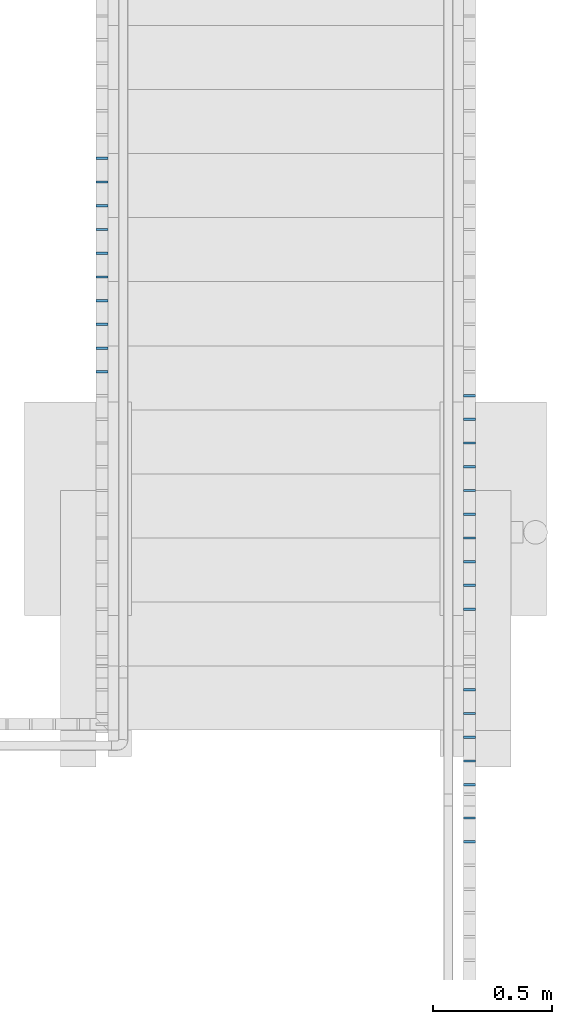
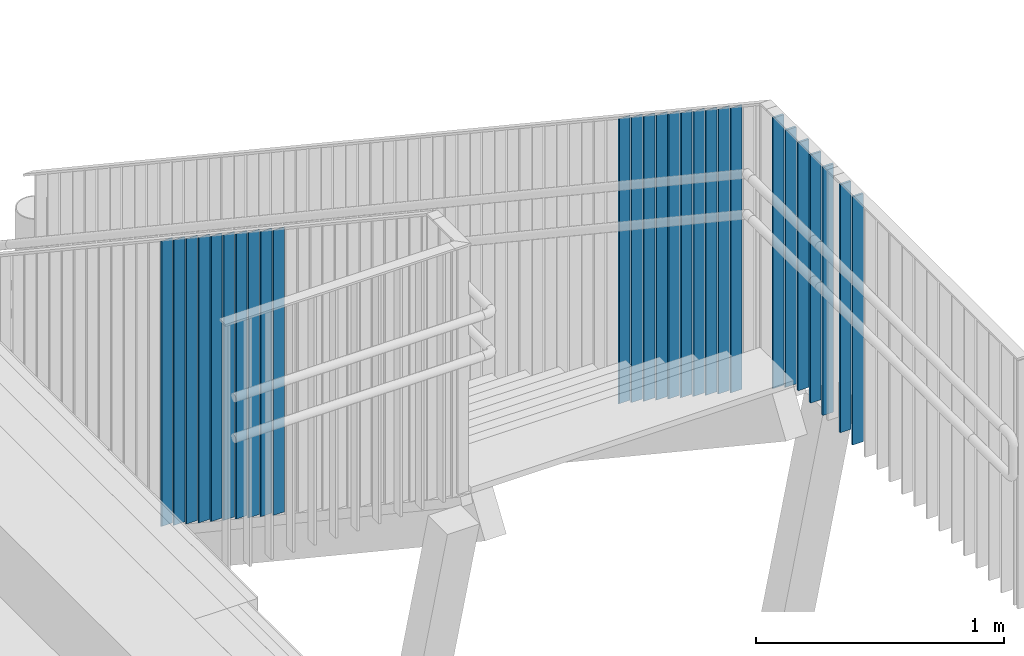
# One storey, part 78 of 418: 27 members, 2 elements without a shape of their own.
"""IFC2X3 building model written with IfcOpenShell, lengths in millimetres."""

from ifc_helpers import new_model, entity, si_unit, converted_unit, derived_unit, money_unit, direction, frame, origin_with_axes, place, context, subcontext, project, spatial, faceted_brep, material, type_object, element, aggregate, save


model = new_model("IFC2X3")

# Units and contexts
model_context = context("Model", 3, precision=0.01, world=origin_with_axes(), true_north=direction((0.0, 1.0)))
body_context = subcontext(model_context, "Body", "Model", "MODEL_VIEW")
ifc_project = project(units=[si_unit("LENGTHUNIT", "METRE", prefix="MILLI"), si_unit("AREAUNIT", "SQUARE_METRE"), si_unit("VOLUMEUNIT", "CUBIC_METRE"), converted_unit("PLANEANGLEUNIT", "DEGREE", entity("IfcPlaneAngleMeasure", 0.0174532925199), si_unit("PLANEANGLEUNIT", "RADIAN"), dimensions=[0, 0, 0, 0, 0, 0, 0]), si_unit("SOLIDANGLEUNIT", "STERADIAN"), money_unit("EUR"), converted_unit("TIMEUNIT", "Year", entity("IfcTimeMeasure", 31556926.0), si_unit("TIMEUNIT", "SECOND"), dimensions=[0, 0, 1, 0, 0, 0, 0]), si_unit("MASSUNIT", "GRAM", prefix="KILO"), si_unit("THERMODYNAMICTEMPERATUREUNIT", "DEGREE_CELSIUS"), si_unit("LUMINOUSINTENSITYUNIT", "LUMEN"), si_unit("ENERGYUNIT", "JOULE", prefix="MEGA"), derived_unit("THERMALCONDUCTANCEUNIT", [(si_unit("POWERUNIT", "WATT"), 1), (si_unit("LENGTHUNIT", "METRE"), -1), (si_unit("THERMODYNAMICTEMPERATUREUNIT", "KELVIN"), -1)]), derived_unit("SPECIFICHEATCAPACITYUNIT", [(si_unit("ENERGYUNIT", "JOULE"), 1), (si_unit("MASSUNIT", "GRAM", prefix="KILO"), -1), (si_unit("THERMODYNAMICTEMPERATUREUNIT", "KELVIN"), -1)]), derived_unit("MASSDENSITYUNIT", [(si_unit("MASSUNIT", "GRAM", prefix="KILO"), 1), (si_unit("VOLUMEUNIT", "CUBIC_METRE"), -1)])], contexts=[model_context])

# Site, building, storey
site_placement = place(None, origin_with_axes())
site = spatial("IfcSite", under=ifc_project, at=site_placement, Name="Paldiski mnt 245/1, Tallinn, Harjumaa", CompositionType="COMPLEX")
building_placement = place(site_placement, origin_with_axes())
building = spatial("IfcBuilding", under=site, at=building_placement, Name="RKAS Hoone üldnimetus (kasutust iseloomustav) -> IFC Project Manager -> SOLIBRI", CompositionType="ELEMENT")
storey_placement = place(building_placement, origin_with_axes())
storey = spatial("IfcBuildingStorey", under=building, at=storey_placement, Name="Esimene korrus", CompositionType="ELEMENT", Elevation=0.0)

# Railing, members
railing_type = type_object("IfcRailingType", Name="Railing Type", PredefinedType="NOTDEFINED")
railing_1_placement = place(storey_placement, frame((-15438.0000282, 781.88210964, -670.434782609), z_axis=(0.0, 0.0, 1.0), x_axis=(-0.773149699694, -0.634223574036, 0.0)))
railing_1 = element("IfcRailing", 1, at=railing_1_placement, inside=storey, type_object=railing_type, Name="Trepipiire", PredefinedType="NOTDEFINED")
ifc_material = material(Name="RAL7016")
member_type = type_object("IfcMemberType", Name="IfcMember", PredefinedType="POST")
member_1_placement = place(railing_1_placement, frame((1744.41686387, 2087.11159382, 2227.21417069), z_axis=(0.0, 0.0, 1.0), x_axis=(-0.773149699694, 0.634223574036, 0.0)))
member_1 = element("IfcMember", 2, at=member_1_placement, type_object=member_type, material=ifc_material, Name="Balustraad - 001", ObjectType="POST", context=body_context, shape_type="Brep", body=[
    faceted_brep([(25.0, -5.0, 89.8872784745), (25.0, 5.0, 83.2206118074), (25.0, 5.0, 1486.6747182), (25.0, -5.0, 1493.3252818), (-24.9999934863, 5.0, 83.2206118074), (-24.9999935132, -5.0, 89.8872784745), (-25.0, 5.0, 1486.6747182), (-25.0, -5.0, 1493.3252818)], [[[0, 1, 2, 3]], [[4, 1, 0, 5]], [[1, 4, 6, 2]], [[6, 7, 3, 2]], [[5, 0, 3, 7]], [[4, 5, 7, 6]]]),
])
member_2_placement = place(railing_1_placement, frame((1807.83922127, 2164.42656379, 2293.71980676), z_axis=(0.0, 0.0, 1.0), x_axis=(-0.773149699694, 0.634223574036, 0.0)))
member_2 = element("IfcMember", 3, at=member_2_placement, type_object=member_type, material=ifc_material, Name="Balustraad - 001", ObjectType="POST", context=body_context, shape_type="Brep", body=[
    faceted_brep([(25.0, -5.0, 90.0483090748), (25.0, 5.0, 83.3816424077), (25.0, 5.0, 1486.6747182), (25.0, -5.0, 1493.3252818), (-24.999993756, 5.0, 83.3816424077), (-24.9999937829, -5.0, 90.0483090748), (-25.0, 5.0, 1486.6747182), (-25.0, -5.0, 1493.3252818)], [[[0, 1, 2, 3]], [[4, 1, 0, 5]], [[1, 4, 6, 2]], [[6, 7, 3, 2]], [[5, 0, 3, 7]], [[4, 5, 7, 6]]]),
])
member_3_placement = place(railing_1_placement, frame((1871.26157868, 2241.74153375, 2360.22544283), z_axis=(0.0, 0.0, 1.0), x_axis=(-0.773149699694, 0.634223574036, 0.0)))
member_3 = element("IfcMember", 4, at=member_3_placement, type_object=member_type, material=ifc_material, Name="Balustraad - 001", ObjectType="POST", context=body_context, shape_type="Brep", body=[
    faceted_brep([(25.0, -5.0, 90.2093396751), (25.0, 5.0, 83.542673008), (25.0, 5.0, 1486.6747182), (25.0, -5.0, 1493.3252818), (-24.9999940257, 5.0, 83.542673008), (-24.9999940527, -5.0, 90.2093396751), (-25.0, 5.0, 1486.6747182), (-25.0, -5.0, 1493.3252818)], [[[0, 1, 2, 3]], [[4, 1, 0, 5]], [[1, 4, 6, 2]], [[6, 7, 3, 2]], [[5, 0, 3, 7]], [[4, 5, 7, 6]]]),
])
member_4_placement = place(railing_1_placement, frame((1934.68393608, 2319.05650372, 2426.7310789), z_axis=(0.0, 0.0, 1.0), x_axis=(-0.773149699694, 0.634223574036, 0.0)))
member_4 = element("IfcMember", 5, at=member_4_placement, type_object=member_type, material=ifc_material, Name="Balustraad - 001", ObjectType="POST", context=body_context, shape_type="Brep", body=[
    faceted_brep([(25.0, -5.0, 90.3703702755), (25.0, 5.0, 83.7037036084), (25.0, 5.0, 1486.6747182), (25.0, -5.0, 1493.3252818), (-24.9999942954, 5.0, 83.7037036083), (-24.9999943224, -5.0, 90.3703702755), (-25.0, 5.0, 1486.6747182), (-25.0, -5.0, 1493.3252818)], [[[0, 1, 2, 3]], [[4, 1, 0, 5]], [[1, 4, 6, 2]], [[6, 7, 3, 2]], [[5, 0, 3, 7]], [[4, 5, 7, 6]]]),
])
member_5_placement = place(railing_1_placement, frame((1998.10629349, 2396.37147369, 2493.23671498), z_axis=(0.0, 0.0, 1.0), x_axis=(-0.773149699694, 0.634223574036, 0.0)))
member_5 = element("IfcMember", 6, at=member_5_placement, type_object=member_type, material=ifc_material, Name="Balustraad - 001", ObjectType="POST", context=body_context, shape_type="Brep", body=[
    faceted_brep([(25.0, -5.0, 90.5314008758), (25.0, 5.0, 83.8647342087), (25.0, 5.0, 1486.6747182), (25.0, -5.0, 1493.3252818), (-24.9999945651, 5.0, 83.8647342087), (-24.9999945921, -5.0, 90.5314008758), (-25.0, 5.0, 1486.6747182), (-25.0, -5.0, 1493.3252818)], [[[0, 1, 2, 3]], [[4, 1, 0, 5]], [[1, 4, 6, 2]], [[6, 7, 3, 2]], [[5, 0, 3, 7]], [[4, 5, 7, 6]]]),
])
member_6_placement = place(railing_1_placement, frame((2061.52865089, 2473.68644366, 2559.74235105), z_axis=(0.0, 0.0, 1.0), x_axis=(-0.773149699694, 0.634223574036, 0.0)))
member_6 = element("IfcMember", 7, at=member_6_placement, type_object=member_type, material=ifc_material, Name="Balustraad - 001", ObjectType="POST", context=body_context, shape_type="Brep", body=[
    faceted_brep([(25.0, -5.0, 90.6924314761), (25.0, 5.0, 84.025764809), (25.0, 5.0, 1486.6747182), (25.0, -5.0, 1493.3252818), (-24.9999948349, 5.0, 84.025764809), (-24.9999948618, -5.0, 90.6924314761), (-25.0, 5.0, 1486.6747182), (-25.0, -5.0, 1493.3252818)], [[[0, 1, 2, 3]], [[4, 1, 0, 5]], [[1, 4, 6, 2]], [[6, 7, 3, 2]], [[5, 0, 3, 7]], [[4, 5, 7, 6]]]),
])
member_7_placement = place(railing_1_placement, frame((2124.95100829, 2551.00141363, 2626.24798712), z_axis=(0.0, 0.0, 1.0), x_axis=(-0.773149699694, 0.634223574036, 0.0)))
member_7 = element("IfcMember", 8, at=member_7_placement, type_object=member_type, material=ifc_material, Name="Balustraad - 001", ObjectType="POST", context=body_context, shape_type="Brep", body=[
    faceted_brep([(25.0, -5.0, 90.8534620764), (25.0, 5.0, 84.1867954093), (25.0, 5.0, 1486.6747182), (25.0, -5.0, 1493.3252818), (-24.9999951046, 5.0, 84.1867954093), (-24.9999951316, -5.0, 90.8534620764), (-25.0, 5.0, 1486.6747182), (-25.0, -5.0, 1493.3252818)], [[[0, 1, 2, 3]], [[4, 1, 0, 5]], [[1, 4, 6, 2]], [[6, 7, 3, 2]], [[5, 0, 3, 7]], [[4, 5, 7, 6]]]),
])
member_8_placement = place(railing_1_placement, frame((2188.3733657, 2628.3163836, 2692.75362319), z_axis=(0.0, 0.0, 1.0), x_axis=(-0.773149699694, 0.634223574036, 0.0)))
member_8 = element("IfcMember", 9, at=member_8_placement, type_object=member_type, material=ifc_material, Name="Balustraad - 001", ObjectType="POST", context=body_context, shape_type="Brep", body=[
    faceted_brep([(25.0, -5.0, 91.0144926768), (25.0, 5.0, 84.3478260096), (25.0, 5.0, 1486.6747182), (25.0, -5.0, 1493.3252818), (-24.9999953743, 5.0, 84.3478260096), (-24.9999954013, -5.0, 91.0144926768), (-25.0, 5.0, 1486.6747182), (-25.0, -5.0, 1493.3252818)], [[[0, 1, 2, 3]], [[4, 1, 0, 5]], [[1, 4, 6, 2]], [[6, 7, 3, 2]], [[5, 0, 3, 7]], [[4, 5, 7, 6]]]),
])
member_9_placement = place(railing_1_placement, frame((2251.7957231, 2705.63135357, 2759.25925926), z_axis=(0.0, 0.0, 1.0), x_axis=(-0.773149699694, 0.634223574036, 0.0)))
member_9 = element("IfcMember", 10, at=member_9_placement, type_object=member_type, material=ifc_material, Name="Balustraad - 001", ObjectType="POST", context=body_context, shape_type="Brep", body=[
    faceted_brep([(25.0, -5.0, 91.1755232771), (25.0, 5.0, 84.50885661), (25.0, 5.0, 1486.6747182), (25.0, -5.0, 1493.3252818), (-24.999995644, 5.0, 84.50885661), (-24.999995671, -5.0, 91.1755232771), (-25.0, 5.0, 1486.6747182), (-25.0, -5.0, 1493.3252818)], [[[0, 1, 2, 3]], [[4, 1, 0, 5]], [[1, 4, 6, 2]], [[6, 7, 3, 2]], [[5, 0, 3, 7]], [[4, 5, 7, 6]]]),
])
member_10_placement = place(railing_1_placement, frame((2315.2180805, 2782.94632354, 2825.76489533), z_axis=(0.0, 0.0, 1.0), x_axis=(-0.773149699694, 0.634223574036, 0.0)))
member_10 = element("IfcMember", 11, at=member_10_placement, type_object=member_type, material=ifc_material, Name="Balustraad - 001", ObjectType="POST", context=body_context, shape_type="Brep", body=[
    faceted_brep([(25.0, -5.0, 91.3365538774), (25.0, 5.0, 84.6698872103), (25.0, 5.0, 1486.6747182), (25.0, -5.0, 1493.3252818), (-24.9999959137, 5.0, 84.6698872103), (-24.9999959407, -5.0, 91.3365538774), (-25.0, 5.0, 1486.6747182), (-25.0, -5.0, 1493.3252818)], [[[0, 1, 2, 3]], [[4, 1, 0, 5]], [[1, 4, 6, 2]], [[6, 7, 3, 2]], [[5, 0, 3, 7]], [[4, 5, 7, 6]]]),
])
aggregate(railing_1, [member_1, member_2, member_3, member_4, member_5, member_6, member_7, member_8, member_9, member_10])

railing_2_placement = place(storey_placement, frame((-13938.0000282, 1623.82640275, -670.434782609), z_axis=(0.0, 0.0, 1.0), x_axis=(0.773149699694, 0.634223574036, 0.0)))
railing_2 = element("IfcRailing", 12, at=railing_2_placement, inside=storey, type_object=railing_type, Name="Trepipiire", PredefinedType="NOTDEFINED")
member_11_placement = place(railing_2_placement, frame((-2873.96387164, -3542.92144959, 2892.2705314), z_axis=(0.0, 0.0, 1.0), x_axis=(0.773149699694, -0.634223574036, 0.0)))
member_11 = element("IfcMember", 13, at=member_11_placement, type_object=member_type, material=ifc_material, Name="Piirde Post - 001", ObjectType="POST", context=body_context, shape_type="Brep", body=[
    faceted_brep([(24.9999996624, -5.0, 91.4975844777), (24.99999966, 5.0, 84.8309178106), (25.0, 5.0, 1486.6747182), (25.0, -5.0, 1493.3252818), (-25.0, 5.0, 84.8309178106), (-25.0, -5.0, 91.4975844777), (-25.0, 5.0, 1486.6747182), (-25.0, -5.0, 1493.3252818)], [[[0, 1, 2, 3]], [[4, 1, 0, 5]], [[1, 4, 6, 2]], [[6, 7, 3, 2]], [[5, 0, 3, 7]], [[4, 5, 7, 6]]]),
])
member_12_placement = place(railing_2_placement, frame((-2937.38622904, -3620.23641956, 2958.77616747), z_axis=(0.0, 0.0, 1.0), x_axis=(0.773149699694, -0.634223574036, 0.0)))
member_12 = element("IfcMember", 14, at=member_12_placement, type_object=member_type, material=ifc_material, Name="Balustraad - 001", ObjectType="POST", context=body_context, shape_type="Brep", body=[
    faceted_brep([(24.9999996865, -5.0, 91.658615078), (24.999999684, 5.0, 84.9919484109), (25.0, 5.0, 1486.6747182), (25.0, -5.0, 1493.3252818), (-25.0, 5.0, 84.9919484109), (-25.0, -5.0, 91.658615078), (-25.0, 5.0, 1486.6747182), (-25.0, -5.0, 1493.3252818)], [[[0, 1, 2, 3]], [[4, 1, 0, 5]], [[1, 4, 6, 2]], [[6, 7, 3, 2]], [[5, 0, 3, 7]], [[4, 5, 7, 6]]]),
])
member_13_placement = place(railing_2_placement, frame((-3000.80858645, -3697.55138953, 3025.28180354), z_axis=(0.0, 0.0, 1.0), x_axis=(0.773149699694, -0.634223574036, 0.0)))
member_13 = element("IfcMember", 15, at=member_13_placement, type_object=member_type, material=ifc_material, Name="Balustraad - 001", ObjectType="POST", context=body_context, shape_type="Brep", body=[
    faceted_brep([(24.9999997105, -5.0, 91.8196456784), (24.9999997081, 5.0, 85.1529790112), (25.0, 5.0, 1486.6747182), (25.0, -5.0, 1493.3252818), (-25.0, 5.0, 85.1529790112), (-25.0, -5.0, 91.8196456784), (-25.0, 5.0, 1486.6747182), (-25.0, -5.0, 1493.3252818)], [[[0, 1, 2, 3]], [[4, 1, 0, 5]], [[1, 4, 6, 2]], [[6, 7, 3, 2]], [[5, 0, 3, 7]], [[4, 5, 7, 6]]]),
])
member_14_placement = place(railing_2_placement, frame((-3064.23094385, -3774.8663595, 3091.78743961), z_axis=(0.0, 0.0, 1.0), x_axis=(0.773149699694, -0.634223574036, 0.0)))
member_14 = element("IfcMember", 16, at=member_14_placement, type_object=member_type, material=ifc_material, Name="Balustraad - 001", ObjectType="POST", context=body_context, shape_type="Brep", body=[
    faceted_brep([(24.9999997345, -5.0, 91.9806762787), (24.9999997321, 5.0, 85.3140096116), (25.0, 5.0, 1486.6747182), (25.0, -5.0, 1493.3252818), (-25.0, 5.0, 85.3140096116), (-25.0, -5.0, 91.9806762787), (-25.0, 5.0, 1486.6747182), (-25.0, -5.0, 1493.3252818)], [[[0, 1, 2, 3]], [[4, 1, 0, 5]], [[1, 4, 6, 2]], [[6, 7, 3, 2]], [[5, 0, 3, 7]], [[4, 5, 7, 6]]]),
])
member_15_placement = place(railing_2_placement, frame((-3127.65330126, -3852.18132947, 3158.29307568), z_axis=(0.0, 0.0, 1.0), x_axis=(0.773149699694, -0.634223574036, 0.0)))
member_15 = element("IfcMember", 17, at=member_15_placement, type_object=member_type, material=ifc_material, Name="Balustraad - 001", ObjectType="POST", context=body_context, shape_type="Brep", body=[
    faceted_brep([(24.9999997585, -5.0, 92.141706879), (24.9999997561, 5.0, 85.4750402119), (25.0, 5.0, 1486.6747182), (25.0, -5.0, 1493.3252818), (-25.0, 5.0, 85.4750402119), (-25.0, -5.0, 92.141706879), (-25.0, 5.0, 1486.6747182), (-25.0, -5.0, 1493.3252818)], [[[0, 1, 2, 3]], [[4, 1, 0, 5]], [[1, 4, 6, 2]], [[6, 7, 3, 2]], [[5, 0, 3, 7]], [[4, 5, 7, 6]]]),
])
member_16_placement = place(railing_2_placement, frame((-3191.07565866, -3929.49629944, 3224.79871176), z_axis=(0.0, 0.0, 1.0), x_axis=(0.773149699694, -0.634223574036, 0.0)))
member_16 = element("IfcMember", 18, at=member_16_placement, type_object=member_type, material=ifc_material, Name="Balustraad - 001", ObjectType="POST", context=body_context, shape_type="Brep", body=[
    faceted_brep([(24.9999997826, -5.0, 92.3027374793), (24.9999997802, 5.0, 85.6360708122), (25.0, 5.0, 1486.6747182), (25.0, -5.0, 1493.3252818), (-25.0, 5.0, 85.6360708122), (-25.0, -5.0, 92.3027374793), (-25.0, 5.0, 1486.6747182), (-25.0, -5.0, 1493.3252818)], [[[0, 1, 2, 3]], [[4, 1, 0, 5]], [[1, 4, 6, 2]], [[6, 7, 3, 2]], [[5, 0, 3, 7]], [[4, 5, 7, 6]]]),
])
member_17_placement = place(railing_2_placement, frame((-3254.49801606, -4006.81126941, 3291.30434783), z_axis=(0.0, 0.0, 1.0), x_axis=(0.773149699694, -0.634223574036, 0.0)))
member_17 = element("IfcMember", 19, at=member_17_placement, type_object=member_type, material=ifc_material, Name="Balustraad - 001", ObjectType="POST", context=body_context, shape_type="Brep", body=[
    faceted_brep([(24.9999998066, -5.0, 92.4637680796), (24.9999998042, 5.0, 85.7971014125), (25.0, 5.0, 1486.6747182), (25.0, -5.0, 1493.3252818), (-25.0, 5.0, 85.7971014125), (-25.0, -5.0, 92.4637680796), (-25.0, 5.0, 1486.6747182), (-25.0, -5.0, 1493.3252818)], [[[0, 1, 2, 3]], [[4, 1, 0, 5]], [[1, 4, 6, 2]], [[6, 7, 3, 2]], [[5, 0, 3, 7]], [[4, 5, 7, 6]]]),
])
member_18_placement = place(railing_2_placement, frame((-3317.92037347, -4084.12623938, 3357.8099839), z_axis=(0.0, 0.0, 1.0), x_axis=(0.773149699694, -0.634223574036, 0.0)))
member_18 = element("IfcMember", 20, at=member_18_placement, type_object=member_type, material=ifc_material, Name="Balustraad - 001", ObjectType="POST", context=body_context, shape_type="Brep", body=[
    faceted_brep([(24.9999998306, -5.0, 92.62479868), (24.9999998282, 5.0, 85.9581320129), (25.0, 5.0, 1486.6747182), (25.0, -5.0, 1493.3252818), (-25.0, 5.0, 85.9581320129), (-25.0, -5.0, 92.62479868), (-25.0, 5.0, 1486.6747182), (-25.0, -5.0, 1493.3252818)], [[[0, 1, 2, 3]], [[4, 1, 0, 5]], [[1, 4, 6, 2]], [[6, 7, 3, 2]], [[5, 0, 3, 7]], [[4, 5, 7, 6]]]),
])
member_19_placement = place(railing_2_placement, frame((-3381.34273087, -4161.44120935, 3424.31561997), z_axis=(0.0, 0.0, 1.0), x_axis=(0.773149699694, -0.634223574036, 0.0)))
member_19 = element("IfcMember", 21, at=member_19_placement, type_object=member_type, material=ifc_material, Name="Balustraad - 001", ObjectType="POST", context=body_context, shape_type="Brep", body=[
    faceted_brep([(24.9999998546, -5.0, 92.7858292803), (24.9999998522, 5.0, 86.1191626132), (25.0, 5.0, 1486.6747182), (25.0, -5.0, 1493.3252818), (-25.0, 5.0, 86.1191626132), (-25.0, -5.0, 92.7858292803), (-25.0, 5.0, 1486.6747182), (-25.0, -5.0, 1493.3252818)], [[[0, 1, 2, 3]], [[4, 1, 0, 5]], [[1, 4, 6, 2]], [[6, 7, 3, 2]], [[5, 0, 3, 7]], [[4, 5, 7, 6]]]),
])
member_20_placement = place(railing_2_placement, frame((-3444.76508827, -4238.75617932, 3490.82125604), z_axis=(0.0, 0.0, 1.0), x_axis=(0.773149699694, -0.634223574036, 0.0)))
member_20 = element("IfcMember", 22, at=member_20_placement, type_object=member_type, material=ifc_material, Name="Balustraad - 001", ObjectType="POST", context=body_context, shape_type="Brep", body=[
    faceted_brep([(24.9999998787, -5.0, 92.9468598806), (24.9999998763, 5.0, 86.2801932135), (25.0, 5.0, 1486.6747182), (25.0, -5.0, 1493.3252818), (-25.0, 5.0, 86.2801932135), (-25.0, -5.0, 92.9468598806), (-25.0, 5.0, 1486.6747182), (-25.0, -5.0, 1493.3252818)], [[[0, 1, 2, 3]], [[4, 1, 0, 5]], [[1, 4, 6, 2]], [[6, 7, 3, 2]], [[5, 0, 3, 7]], [[4, 5, 7, 6]]]),
])
member_21_placement = place(railing_2_placement, frame((-3660.40110345, -4501.62707721, 3650.43478261), z_axis=(0.0, 0.0, 1.0), x_axis=(0.773149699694, -0.634223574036, 0.0)))
member_21 = element("IfcMember", 23, at=member_21_placement, type_object=member_type, material=ifc_material, Name="Balustraad - 001", ObjectType="POST", context=body_context, shape_type="Brep", body=[
    faceted_brep([(24.9999999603, -5.0, 159.999999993), (24.9999999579, 5.0, 153.333333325), (25.0, 5.0, 1490.0), (25.0, -5.0, 1490.0), (-25.0, 5.0, 153.333333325), (-25.0, -5.0, 159.999999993), (-25.0, 5.0, 1490.0), (-25.0, -5.0, 1490.0)], [[[0, 1, 2, 3]], [[4, 1, 0, 5]], [[1, 4, 6, 2]], [[6, 7, 3, 2]], [[5, 0, 3, 7]], [[4, 5, 7, 6]]]),
])
member_22_placement = place(railing_2_placement, frame((-3723.82346085, -4578.94204718, 3650.43478261), z_axis=(0.0, 0.0, 1.0), x_axis=(0.773149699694, -0.634223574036, 0.0)))
member_22 = element("IfcMember", 24, at=member_22_placement, type_object=member_type, material=ifc_material, Name="Balustraad - 001", ObjectType="POST", context=body_context, shape_type="Brep", body=[
    faceted_brep([(24.9999999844, -5.0, 226.666666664), (24.999999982, 5.0, 219.999999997), (25.0, 5.0, 1490.0), (25.0, -5.0, 1490.0), (-25.0, 5.0, 219.999999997), (-25.0, -5.0, 226.666666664), (-25.0, 5.0, 1490.0), (-25.0, -5.0, 1490.0)], [[[0, 1, 2, 3]], [[4, 1, 0, 5]], [[1, 4, 6, 2]], [[6, 7, 3, 2]], [[5, 0, 3, 7]], [[4, 5, 7, 6]]]),
])
member_23_placement = place(railing_2_placement, frame((-3787.24581825, -4656.25701715, 3650.43478261), z_axis=(0.0, 0.0, 1.0), x_axis=(0.773149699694, -0.634223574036, 0.0)))
member_23 = element("IfcMember", 25, at=member_23_placement, type_object=member_type, material=ifc_material, Name="Balustraad - 001", ObjectType="POST", context=body_context, shape_type="Brep", body=[
    faceted_brep([(25.0, -5.0, 270.0), (25.0, 5.0, 270.0), (25.0, 5.0, 1490.0), (25.0, -5.0, 1490.0), (-25.0, 5.0, 270.0), (-25.0, -5.0, 270.0), (-25.0, 5.0, 1490.0), (-25.0, -5.0, 1490.0)], [[[0, 1, 2, 3]], [[4, 1, 0, 5]], [[1, 4, 6, 2]], [[6, 7, 3, 2]], [[5, 0, 3, 7]], [[4, 5, 7, 6]]]),
])
member_24_placement = place(railing_2_placement, frame((-3850.66817566, -4733.57198712, 3650.43478261), z_axis=(0.0, 0.0, 1.0), x_axis=(0.773149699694, -0.634223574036, 0.0)))
member_24 = element("IfcMember", 26, at=member_24_placement, type_object=member_type, material=ifc_material, Name="Balustraad - 001", ObjectType="POST", context=body_context, shape_type="Brep", body=[
    faceted_brep([(25.0, -5.0, 270.0), (25.0, 5.0, 270.0), (25.0, 5.0, 1490.0), (25.0, -5.0, 1490.0), (-25.0, 5.0, 270.0), (-25.0, -5.0, 270.0), (-25.0, 5.0, 1490.0), (-25.0, -5.0, 1490.0)], [[[0, 1, 2, 3]], [[4, 1, 0, 5]], [[1, 4, 6, 2]], [[6, 7, 3, 2]], [[5, 0, 3, 7]], [[4, 5, 7, 6]]]),
])
member_25_placement = place(railing_2_placement, frame((-3914.09053306, -4810.88695709, 3650.43478261), z_axis=(0.0, 0.0, 1.0), x_axis=(0.773149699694, -0.634223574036, 0.0)))
member_25 = element("IfcMember", 27, at=member_25_placement, type_object=member_type, material=ifc_material, Name="Balustraad - 001", ObjectType="POST", context=body_context, shape_type="Brep", body=[
    faceted_brep([(25.0, -5.0, 270.0), (25.0, 5.0, 270.0), (25.0, 5.0, 1490.0), (25.0, -5.0, 1490.0), (-25.0, 5.0, 270.0), (-25.0, -5.0, 270.0), (-25.0, 5.0, 1490.0), (-25.0, -5.0, 1490.0)], [[[0, 1, 2, 3]], [[4, 1, 0, 5]], [[1, 4, 6, 2]], [[6, 7, 3, 2]], [[5, 0, 3, 7]], [[4, 5, 7, 6]]]),
])
member_26_placement = place(railing_2_placement, frame((-4002.88183343, -4919.12791505, 3650.43478261), z_axis=(0.0, 0.0, 1.0), x_axis=(0.773149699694, -0.634223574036, 0.0)))
member_26 = element("IfcMember", 28, at=member_26_placement, type_object=member_type, material=ifc_material, Name="Balustraad - 001", ObjectType="POST", context=body_context, shape_type="Brep", body=[
    faceted_brep([(25.0, -5.0, 270.0), (25.0, 5.0, 270.0), (25.0, 5.0, 1490.0), (25.0, -5.0, 1490.0), (-25.0, 5.0, 270.0), (-25.0, -5.0, 270.0), (-25.0, 5.0, 1490.0), (-25.0, -5.0, 1490.0)], [[[0, 1, 2, 3]], [[4, 1, 0, 5]], [[1, 4, 6, 2]], [[6, 7, 3, 2]], [[5, 0, 3, 7]], [[4, 5, 7, 6]]]),
])
member_27_placement = place(railing_2_placement, frame((-4066.30419083, -4996.44288502, 3650.43478261), z_axis=(0.0, 0.0, 1.0), x_axis=(0.773149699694, -0.634223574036, 0.0)))
member_27 = element("IfcMember", 29, at=member_27_placement, type_object=member_type, material=ifc_material, Name="Balustraad - 001", ObjectType="POST", context=body_context, shape_type="Brep", body=[
    faceted_brep([(25.0, -5.0, 270.0), (25.0, 5.0, 270.0), (25.0, 5.0, 1490.0), (25.0, -5.0, 1490.0), (-25.0, 5.0, 270.0), (-25.0, -5.0, 270.0), (-25.0, 5.0, 1490.0), (-25.0, -5.0, 1490.0)], [[[0, 1, 2, 3]], [[4, 1, 0, 5]], [[1, 4, 6, 2]], [[6, 7, 3, 2]], [[5, 0, 3, 7]], [[4, 5, 7, 6]]]),
])
aggregate(railing_2, [member_11, member_12, member_13, member_14, member_15, member_16, member_17, member_18, member_19, member_20, member_21, member_22, member_23, member_24, member_25, member_26, member_27])

save(model, "model.ifc")
